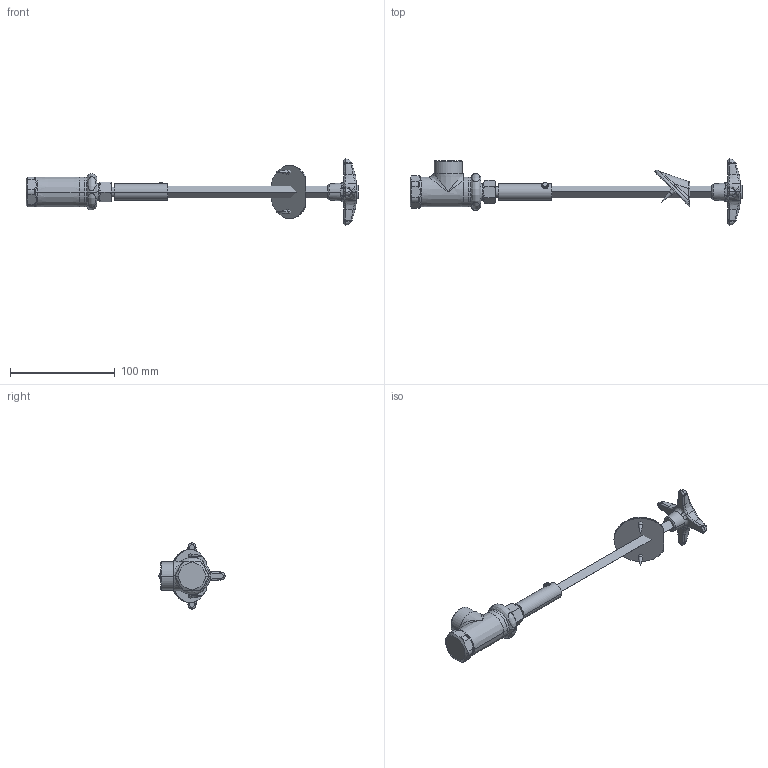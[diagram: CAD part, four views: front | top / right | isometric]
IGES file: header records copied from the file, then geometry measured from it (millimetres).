
Start section:  PTC IGES file: LRV-N6-A2D.igs
Global section: file name: LRV-N6-A2D.igs; native system: Creo Parametric by PTC Inc.; preprocessor: 2014500; author: usch_engrender; organization: Unknown; date: 20160209.100245; units: inch
Bounding box: 317.27 x 63.41 x 63.41 mm (x, y, z)
Surface area: 32680.3 mm2 (no closed solid volume)
Topology: 0 solids, 24 shells, 347 faces, 932 edges, 596 vertices
Faces by surface type: bspline 228, revolution 119
